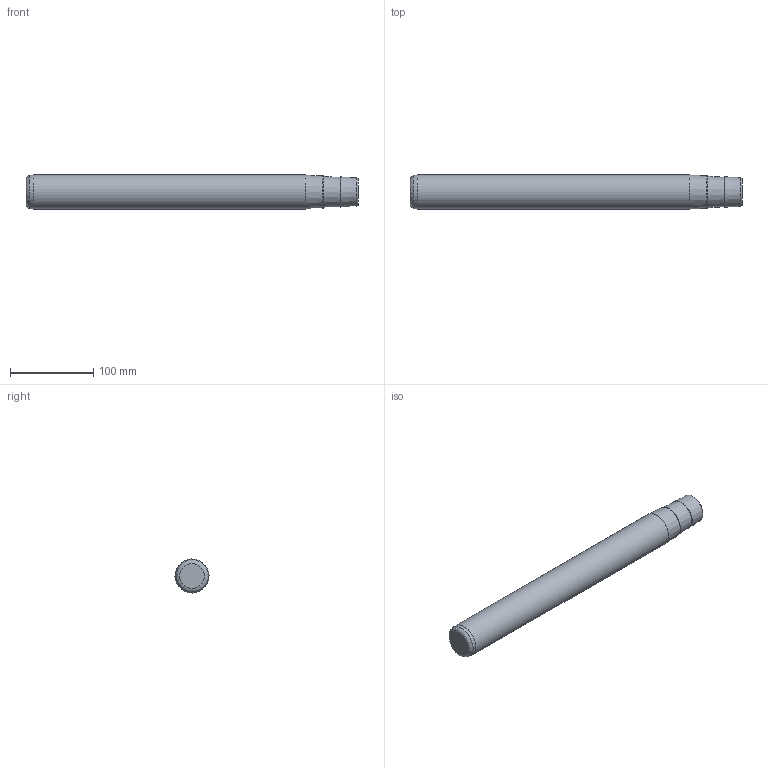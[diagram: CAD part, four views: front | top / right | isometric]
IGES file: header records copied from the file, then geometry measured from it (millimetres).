
Global section: file name: C541400.ipt; native system: Autodesk Inventor 2021; preprocessor: unknown; author: SM; date: 20220119.064808; units: millimetre
Bounding box: 400 x 41 x 41 mm (x, y, z)
Volume: 511040.4 mm3; surface area: 53475.1 mm2
Topology: 1 solids, 1 shells, 18 faces, 45 edges, 31 vertices
Faces by surface type: revolution 7, cone 5, plane 4, bspline 1, cylinder 1
Full cylindrical faces by diameter (mm): 41 x1
